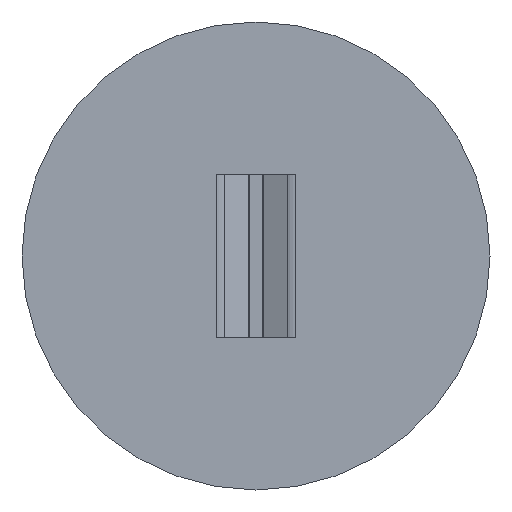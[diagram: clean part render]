
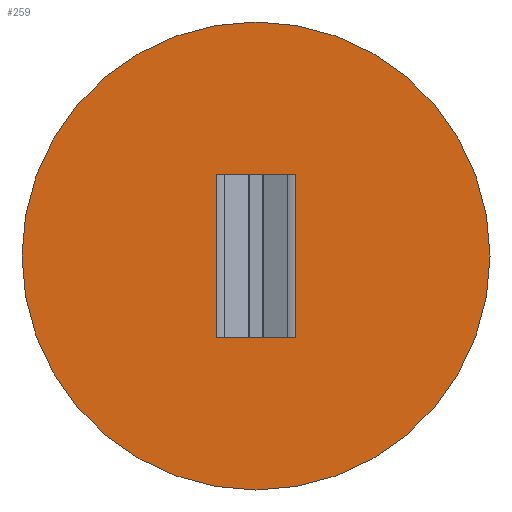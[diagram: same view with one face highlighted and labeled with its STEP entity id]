
A CAD part, front view. The second image highlights one B-rep face of the part: STEP entity #259.
In plain terms, the highlighted planar face has unit normal (0, -1, 0).
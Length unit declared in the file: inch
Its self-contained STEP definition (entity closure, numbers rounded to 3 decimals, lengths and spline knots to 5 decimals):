
#9 = ORIENTED_EDGE ( 'NONE', *, *, #461, .T. ) ;
#30 = CARTESIAN_POINT ( 'NONE',  ( -0.625, -0.04, 0.219 ) ) ;
#57 = FACE_BOUND ( 'NONE', #321, .T. ) ;
#60 = DIRECTION ( 'NONE',  ( 0., -1., 0. ) ) ;
#61 = VERTEX_POINT ( 'NONE', #382 ) ;
#67 = CARTESIAN_POINT ( 'NONE',  ( 0.625, -0.04, 0.219 ) ) ;
#72 = VERTEX_POINT ( 'NONE', #210 ) ;
#78 = AXIS2_PLACEMENT_3D ( 'NONE', #172, #467, #181 ) ;
#96 = CARTESIAN_POINT ( 'NONE',  ( 0.10569, -0.04, 0. ) ) ;
#124 = FACE_OUTER_BOUND ( 'NONE', #496, .T. ) ;
#129 = LINE ( 'NONE', #500, #332 ) ;
#160 = ORIENTED_EDGE ( 'NONE', *, *, #573, .T. ) ;
#172 = CARTESIAN_POINT ( 'NONE',  ( 0., -0.04, 0.219 ) ) ;
#174 = PLANE ( 'NONE',  #549 ) ;
#181 = DIRECTION ( 'NONE',  ( 1., 0., 0. ) ) ;
#186 = CARTESIAN_POINT ( 'NONE',  ( 0.10569, -0.04, 0.438 ) ) ;
#200 = CIRCLE ( 'NONE', #429, 0.625 ) ;
#210 = CARTESIAN_POINT ( 'NONE',  ( -0.10569, -0.04, 0. ) ) ;
#216 = VERTEX_POINT ( 'NONE', #340 ) ;
#223 = LINE ( 'NONE', #402, #714 ) ;
#227 = DIRECTION ( 'NONE',  ( 1., 0., 0. ) ) ;
#230 = VECTOR ( 'NONE', #260, 39.37008 ) ;
#259 = ADVANCED_FACE ( 'NONE', ( #57, #124 ), #174, .T. ) ;
#260 = DIRECTION ( 'NONE',  ( -1., 0., 0. ) ) ;
#271 = EDGE_CURVE ( 'NONE', #315, #61, #398, .T. ) ;
#315 = VERTEX_POINT ( 'NONE', #538 ) ;
#321 = EDGE_LOOP ( 'NONE', ( #568, #9, #650, #466 ) ) ;
#332 = VECTOR ( 'NONE', #671, 39.37008 ) ;
#336 = CARTESIAN_POINT ( 'NONE',  ( 0., -0.04, 0.219 ) ) ;
#340 = CARTESIAN_POINT ( 'NONE',  ( -0.10569, -0.04, 0.438 ) ) ;
#355 = CARTESIAN_POINT ( 'NONE',  ( 0.10569, -0.04, 0.438 ) ) ;
#381 = LINE ( 'NONE', #96, #230 ) ;
#382 = CARTESIAN_POINT ( 'NONE',  ( 0.10569, -0.04, 0. ) ) ;
#397 = DIRECTION ( 'NONE',  ( 0., 0., -1. ) ) ;
#398 = LINE ( 'NONE', #355, #501 ) ;
#402 = CARTESIAN_POINT ( 'NONE',  ( -0.10569, -0.04, 0.438 ) ) ;
#429 = AXIS2_PLACEMENT_3D ( 'NONE', #336, #666, #511 ) ;
#435 = VERTEX_POINT ( 'NONE', #30 ) ;
#448 = EDGE_CURVE ( 'NONE', #315, #216, #129, .T. ) ;
#461 = EDGE_CURVE ( 'NONE', #61, #72, #381, .T. ) ;
#466 = ORIENTED_EDGE ( 'NONE', *, *, #448, .F. ) ;
#467 = DIRECTION ( 'NONE',  ( 0., -1., 0. ) ) ;
#494 = ORIENTED_EDGE ( 'NONE', *, *, #591, .T. ) ;
#496 = EDGE_LOOP ( 'NONE', ( #494, #160 ) ) ;
#500 = CARTESIAN_POINT ( 'NONE',  ( 0.10569, -0.04, 0.438 ) ) ;
#501 = VECTOR ( 'NONE', #586, 39.37008 ) ;
#511 = DIRECTION ( 'NONE',  ( 1., 0., 0. ) ) ;
#521 = CIRCLE ( 'NONE', #78, 0.625 ) ;
#538 = CARTESIAN_POINT ( 'NONE',  ( 0.10569, -0.04, 0.438 ) ) ;
#549 = AXIS2_PLACEMENT_3D ( 'NONE', #186, #60, #227 ) ;
#568 = ORIENTED_EDGE ( 'NONE', *, *, #271, .T. ) ;
#573 = EDGE_CURVE ( 'NONE', #435, #676, #200, .T. ) ;
#586 = DIRECTION ( 'NONE',  ( 0., 0., -1. ) ) ;
#591 = EDGE_CURVE ( 'NONE', #676, #435, #521, .T. ) ;
#650 = ORIENTED_EDGE ( 'NONE', *, *, #653, .F. ) ;
#653 = EDGE_CURVE ( 'NONE', #216, #72, #223, .T. ) ;
#666 = DIRECTION ( 'NONE',  ( 0., -1., 0. ) ) ;
#671 = DIRECTION ( 'NONE',  ( -1., 0., 0. ) ) ;
#676 = VERTEX_POINT ( 'NONE', #67 ) ;
#714 = VECTOR ( 'NONE', #397, 39.37008 ) ;
